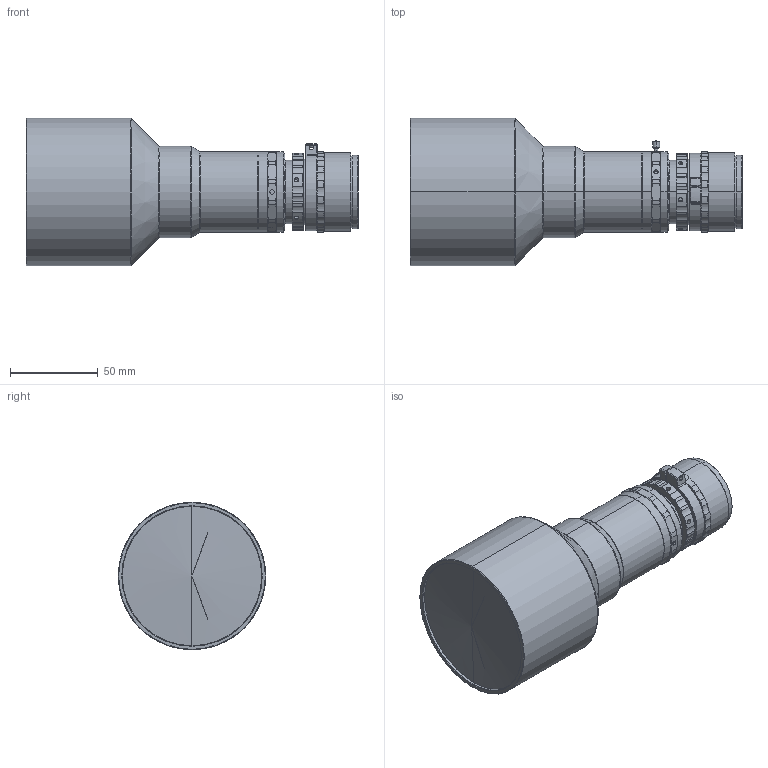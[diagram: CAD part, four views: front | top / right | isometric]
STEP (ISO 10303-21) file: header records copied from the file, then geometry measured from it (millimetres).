
FILE_DESCRIPTION (( 'STEP AP203' ), '1' );
FILE_NAME ('DTCA175-61.4-G-M42-ALV2.STEP', '2022-12-02T09:08:54', ( '' ), ( '' ), 'SwSTEP 2.0', 'SolidWorks 2017', '' );
FILE_SCHEMA (( 'CONFIG_CONTROL_DESIGN' ));
Length unit declared in the file: millimetre
Products named in the file (1): DTCA175-61.4-G-M42-ALV2
Bounding box: 188.89 x 84 x 84 mm (x, y, z)
Volume: 573909.7 mm3; surface area: 48895.5 mm2
Topology: 1 solids, 1 shells, 570 faces, 1559 edges, 995 vertices
Faces by surface type: cylinder 191, cone 185, plane 137, bspline 57
Entity records: 21881 total; most frequent: CARTESIAN_POINT 7788, ORIENTED_EDGE 3102, DIRECTION 2793, EDGE_CURVE 1551, AXIS2_PLACEMENT_3D 1110, VERTEX_POINT 995, EDGE_LOOP 614, CIRCLE 596
